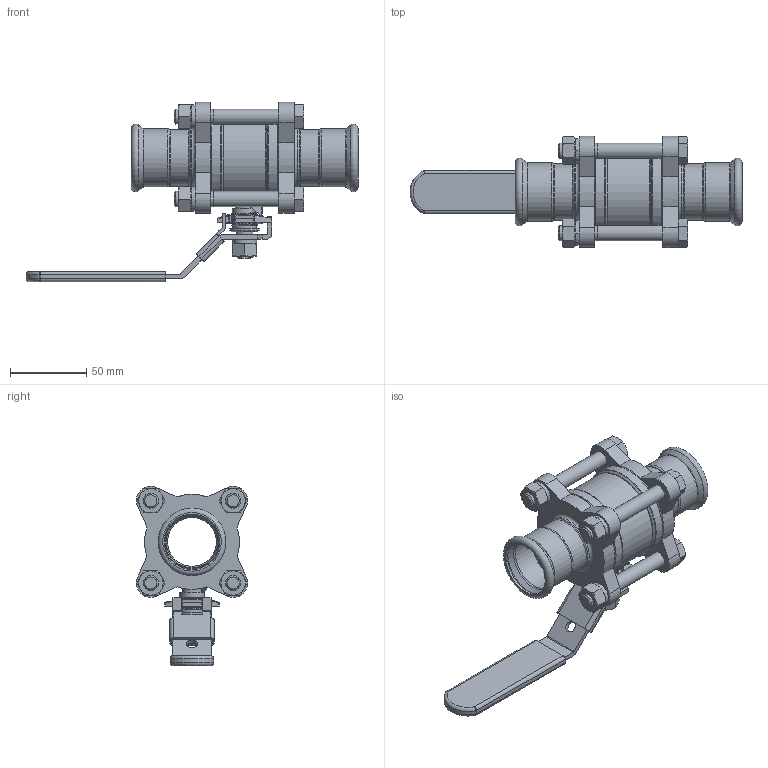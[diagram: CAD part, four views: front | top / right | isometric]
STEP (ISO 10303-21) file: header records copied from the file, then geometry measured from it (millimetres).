
FILE_DESCRIPTION(('STEP AP214'),'1');
FILE_NAME('11-4.stp','2025-03-26T07:39:26',(' '),(' '),'Spatial InterOp 3D',' ',' ');
FILE_SCHEMA(('AUTOMOTIVE_DESIGN { 1 0 10303 214 1 1 1 1 }'));
Length unit declared in the file: millimetre
Products named in the file (26): 3PC卡压球阀 11/4; 阀体; 阀盖; 球体; 阀杆; 阀座; 止推垫圈; 填料; 格兰; 手柄套; 手柄; 锁扣; 螺母 ： 标准 - M10.0 x 8.4; 垫圈 ： 单圈弹簧 - M10.0 x 2.6; 螺栓 ： 六角头 - M10.0 x 79.0
Assembly tree (25 placements, depth 2):
  3PC卡压球阀 11/4
    阀体
    阀盖
    球体
    阀杆
    阀座
    止推垫圈
    填料
    格兰
    手柄套
    手柄
    锁扣
    螺母 ： 标准 - M10.0 x 8.4
    垫圈 ： 单圈弹簧 - M10.0 x 2.6
    螺栓 ： 六角头 - M10.0 x 79.0
    螺栓 ： 六角头 - M10.0 x 79.0
    螺栓 ： 六角头 - M10.0 x 79.0
    螺栓 ： 六角头 - M10.0 x 79.0
    螺母 ： 标准 - M10.0 x 8.4
    螺母 ： 标准 - M10.0 x 8.4
    螺母 ： 标准 - M10.0 x 8.4
    螺母 ： 标准 - M10.0 x 8.4
    垫圈 ： 单圈弹簧 - M10.0 x 2.6
    垫圈 ： 单圈弹簧 - M10.0 x 2.6
    垫圈 ： 单圈弹簧 - M10.0 x 2.6
    垫圈 ： 单圈弹簧 - M10.0 x 2.6
Bounding box: 218.36 x 73.03 x 117.92 mm (x, y, z)
Volume: 232374.7 mm3; surface area: 130561.3 mm2
Topology: 27 solids, 28 shells, 720 faces, 1718 edges, 1060 vertices
Faces by surface type: plane 235, cylinder 177, bspline 137, cone 122, torus 32, sphere 17
Full cylindrical faces by diameter (mm): 7.5 x1, 10 x9, 10.5 x8, 11.5 x2, 11.7 x1, 12 x2, 15 x2, 15.5 x1, 15.951 x6, 16 x1, 16.1 x1, 19.63 x1, 24 x1, 32 x5, 34 x2, 35.3 x2, 36.5 x2, 37 x2, 38.3 x2, 38.5 x2, 51.5 x1, 52 x2, 52.1 x2, 56 x2, 56.1 x2, 59.5 x1, 62.5 x2
Entity records: 105293 total; most frequent: CARTESIAN_POINT 84433, ORIENTED_EDGE 3094, DIRECTION 2610, EDGE_CURVE 1547, VERTEX_POINT 1029, AXIS2_PLACEMENT_3D 1027, EDGE_LOOP 900, FACE_OUTER_BOUND 796
